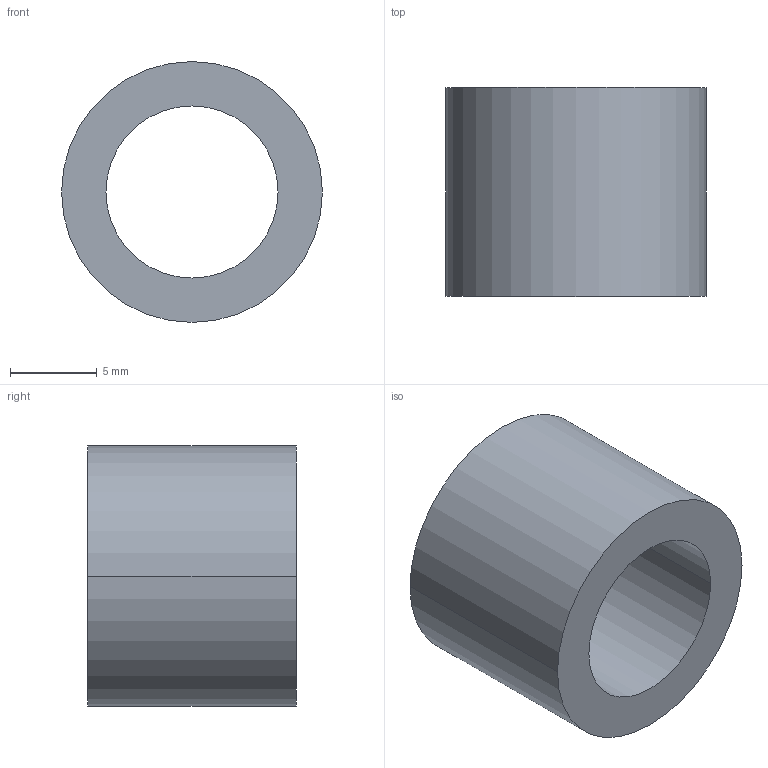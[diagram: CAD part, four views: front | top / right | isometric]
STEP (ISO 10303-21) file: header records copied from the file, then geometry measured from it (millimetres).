
FILE_DESCRIPTION (( 'STEP AP203' ), '1' );
FILE_NAME ('30800.WPP15E9.9.step', '2019-01-23T22:33:48', ( '' ), ( '' ), 'SwSTEP 2.0', 'SolidWorks 2017', '' );
FILE_SCHEMA (( 'CONFIG_CONTROL_DESIGN' ));
Length unit declared in the file: millimetre
Products named in the file (1): 30800.WPP15E9.9
Bounding box: 15 x 12 x 15 mm (x, y, z)
Volume: 1167.7 mm3; surface area: 1113.3 mm2
Topology: 1 solids, 1 shells, 8 faces, 16 edges, 10 vertices
Faces by surface type: cylinder 4, torus 2, plane 2
Entity records: 297 total; most frequent: DIRECTION 46, CARTESIAN_POINT 35, ORIENTED_EDGE 32, AXIS2_PLACEMENT_3D 21, EDGE_CURVE 16, CIRCLE 12, EDGE_LOOP 10, VERTEX_POINT 10
